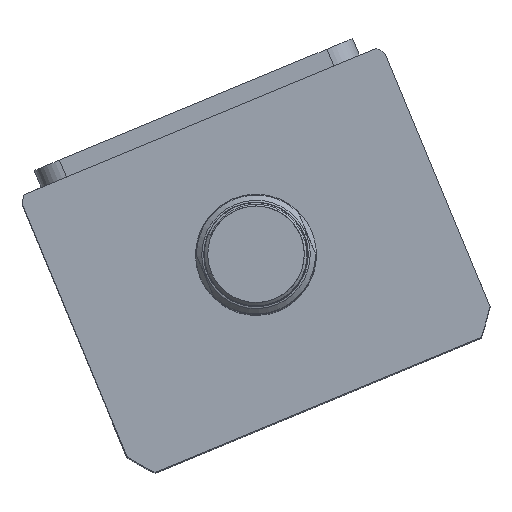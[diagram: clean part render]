
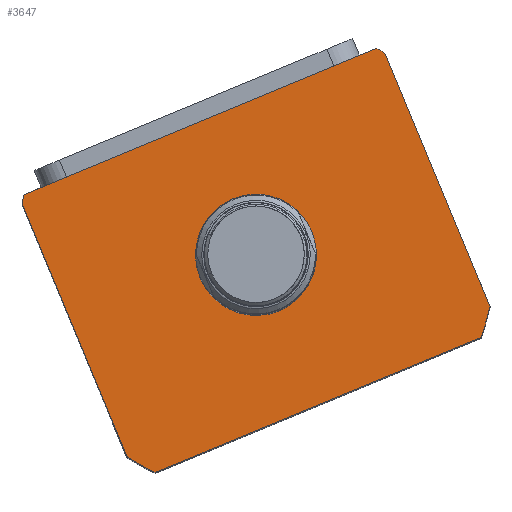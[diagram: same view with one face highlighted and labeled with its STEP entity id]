
A CAD part, top view. The second image highlights one B-rep face of the part: STEP entity #3647.
In plain terms, the highlighted planar face has unit normal (0, 0, 1) as drawn and (0, 0, -1) by its records, which use the part's own axes.
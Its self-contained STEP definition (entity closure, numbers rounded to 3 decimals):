
#242 = DIRECTION ( 'NONE',  ( 1., 0., 0. ) ) ;
#406 = AXIS2_PLACEMENT_3D ( 'NONE', #7515, #26863, #14004 ) ;
#726 = DIRECTION ( 'NONE',  ( 1., 0., 0. ) ) ;
#785 = AXIS2_PLACEMENT_3D ( 'NONE', #21077, #8212, #23264 ) ;
#1058 = LINE ( 'NONE', #7216, #23945 ) ;
#1240 = CARTESIAN_POINT ( 'NONE',  ( -57., -19.732, 0. ) ) ;
#1705 = CARTESIAN_POINT ( 'NONE',  ( -17.5, -59.497, 0. ) ) ;
#1787 = CARTESIAN_POINT ( 'NONE',  ( -57., -99.262, 0. ) ) ;
#1852 = DIRECTION ( 'NONE',  ( 0., 0., 1. ) ) ;
#2911 = CARTESIAN_POINT ( 'NONE',  ( 55.374, -17.497, 0. ) ) ;
#3503 = AXIS2_PLACEMENT_3D ( 'NONE', #26497, #13628, #726 ) ;
#3647 = ADVANCED_FACE ( 'NONE', ( #19321, #8545 ), #11825, .F. ) ;
#4004 = CARTESIAN_POINT ( 'NONE',  ( 0., -59.497, 0. ) ) ;
#4220 = DIRECTION ( 'NONE',  ( 0., 0., 1. ) ) ;
#4394 = ORIENTED_EDGE ( 'NONE', *, *, #16817, .F. ) ;
#4401 = VECTOR ( 'NONE', #5169, 1000. ) ;
#4866 = CARTESIAN_POINT ( 'NONE',  ( 51.198, -106.497, 0. ) ) ;
#5169 = DIRECTION ( 'NONE',  ( 0., -1., 0. ) ) ;
#5617 = VECTOR ( 'NONE', #13258, 1000. ) ;
#5749 = LINE ( 'NONE', #17976, #4401 ) ;
#6091 = ORIENTED_EDGE ( 'NONE', *, *, #19586, .F. ) ;
#6181 = DIRECTION ( 'NONE',  ( 1., 0., 0. ) ) ;
#6619 = EDGE_CURVE ( 'NONE', #13816, #6711, #22438, .T. ) ;
#6711 = VERTEX_POINT ( 'NONE', #18998 ) ;
#6735 = EDGE_CURVE ( 'NONE', #12396, #10104, #25432, .T. ) ;
#6958 = CARTESIAN_POINT ( 'NONE',  ( -57., -106.497, 0. ) ) ;
#7155 = EDGE_CURVE ( 'NONE', #10104, #19701, #11330, .T. ) ;
#7216 = CARTESIAN_POINT ( 'NONE',  ( 57., -17.497, 0. ) ) ;
#7389 = CARTESIAN_POINT ( 'NONE',  ( -51.198, -106.497, 0. ) ) ;
#7515 = CARTESIAN_POINT ( 'NONE',  ( 0., 0., 0. ) ) ;
#7826 = VERTEX_POINT ( 'NONE', #24887 ) ;
#8212 = DIRECTION ( 'NONE',  ( 0., 0., 1. ) ) ;
#8483 = CIRCLE ( 'NONE', #24542, 69.5 ) ;
#8545 = FACE_OUTER_BOUND ( 'NONE', #8762, .T. ) ;
#8661 = VERTEX_POINT ( 'NONE', #1240 ) ;
#8762 = EDGE_LOOP ( 'NONE', ( #14934, #4394, #6091, #21518, #14986, #21616, #22941, #9473 ) ) ;
#9473 = ORIENTED_EDGE ( 'NONE', *, *, #6619, .F. ) ;
#9579 = EDGE_CURVE ( 'NONE', #18544, #25528, #24152, .T. ) ;
#9624 = CIRCLE ( 'NONE', #10916, 69.5 ) ;
#9811 = AXIS2_PLACEMENT_3D ( 'NONE', #17117, #4220, #19258 ) ;
#10024 = ORIENTED_EDGE ( 'NONE', *, *, #10498, .T. ) ;
#10104 = VERTEX_POINT ( 'NONE', #7389 ) ;
#10194 = CARTESIAN_POINT ( 'NONE',  ( 57., -99.262, 0. ) ) ;
#10337 = CARTESIAN_POINT ( 'NONE',  ( 17.5, -59.497, 0. ) ) ;
#10498 = EDGE_CURVE ( 'NONE', #25528, #18544, #17452, .T. ) ;
#10916 = AXIS2_PLACEMENT_3D ( 'NONE', #26034, #13159, #242 ) ;
#11330 = LINE ( 'NONE', #6958, #5617 ) ;
#11825 = PLANE ( 'NONE',  #406 ) ;
#12396 = VERTEX_POINT ( 'NONE', #1787 ) ;
#13067 = AXIS2_PLACEMENT_3D ( 'NONE', #14760, #1852, #16949 ) ;
#13159 = DIRECTION ( 'NONE',  ( 0., 0., 1. ) ) ;
#13258 = DIRECTION ( 'NONE',  ( 1., 0., 0. ) ) ;
#13449 = EDGE_CURVE ( 'NONE', #7826, #13816, #9624, .T. ) ;
#13628 = DIRECTION ( 'NONE',  ( 0., 0., 1. ) ) ;
#13816 = VERTEX_POINT ( 'NONE', #2911 ) ;
#14004 = DIRECTION ( 'NONE',  ( 1., 0., 0. ) ) ;
#14760 = CARTESIAN_POINT ( 'NONE',  ( 0., -59.497, 0. ) ) ;
#14934 = ORIENTED_EDGE ( 'NONE', *, *, #13449, .F. ) ;
#14986 = ORIENTED_EDGE ( 'NONE', *, *, #6735, .F. ) ;
#15786 = EDGE_CURVE ( 'NONE', #6711, #8661, #8483, .T. ) ;
#16530 = CIRCLE ( 'NONE', #3503, 69.5 ) ;
#16817 = EDGE_CURVE ( 'NONE', #17469, #7826, #1058, .T. ) ;
#16949 = DIRECTION ( 'NONE',  ( 1., 0., 0. ) ) ;
#17117 = CARTESIAN_POINT ( 'NONE',  ( 0., -59.497, 0. ) ) ;
#17452 = CIRCLE ( 'NONE', #9811, 17.5 ) ;
#17469 = VERTEX_POINT ( 'NONE', #10194 ) ;
#17976 = CARTESIAN_POINT ( 'NONE',  ( -57., -17.497, 0. ) ) ;
#18544 = VERTEX_POINT ( 'NONE', #10337 ) ;
#18722 = CARTESIAN_POINT ( 'NONE',  ( -57., -17.497, 0. ) ) ;
#18998 = CARTESIAN_POINT ( 'NONE',  ( -55.374, -17.497, 0. ) ) ;
#19048 = DIRECTION ( 'NONE',  ( 0., 0., 1. ) ) ;
#19258 = DIRECTION ( 'NONE',  ( 1., 0., 0. ) ) ;
#19321 = FACE_BOUND ( 'NONE', #27596, .T. ) ;
#19586 = EDGE_CURVE ( 'NONE', #19701, #17469, #16530, .T. ) ;
#19701 = VERTEX_POINT ( 'NONE', #4866 ) ;
#20195 = ORIENTED_EDGE ( 'NONE', *, *, #9579, .T. ) ;
#21077 = CARTESIAN_POINT ( 'NONE',  ( 0., -59.497, 0. ) ) ;
#21518 = ORIENTED_EDGE ( 'NONE', *, *, #7155, .F. ) ;
#21616 = ORIENTED_EDGE ( 'NONE', *, *, #27071, .F. ) ;
#22254 = DIRECTION ( 'NONE',  ( 0., 1., 0. ) ) ;
#22438 = LINE ( 'NONE', #18722, #26795 ) ;
#22941 = ORIENTED_EDGE ( 'NONE', *, *, #15786, .F. ) ;
#23264 = DIRECTION ( 'NONE',  ( 1., 0., 0. ) ) ;
#23945 = VECTOR ( 'NONE', #22254, 1000. ) ;
#24152 = CIRCLE ( 'NONE', #785, 17.5 ) ;
#24542 = AXIS2_PLACEMENT_3D ( 'NONE', #4004, #19048, #6181 ) ;
#24887 = CARTESIAN_POINT ( 'NONE',  ( 57., -19.732, 0. ) ) ;
#25432 = CIRCLE ( 'NONE', #13067, 69.5 ) ;
#25528 = VERTEX_POINT ( 'NONE', #1705 ) ;
#26034 = CARTESIAN_POINT ( 'NONE',  ( 0., -59.497, 0. ) ) ;
#26497 = CARTESIAN_POINT ( 'NONE',  ( 0., -59.497, 0. ) ) ;
#26795 = VECTOR ( 'NONE', #27266, 1000. ) ;
#26863 = DIRECTION ( 'NONE',  ( 0., 0., 1. ) ) ;
#27071 = EDGE_CURVE ( 'NONE', #8661, #12396, #5749, .T. ) ;
#27266 = DIRECTION ( 'NONE',  ( -1., 0., 0. ) ) ;
#27596 = EDGE_LOOP ( 'NONE', ( #20195, #10024 ) ) ;
